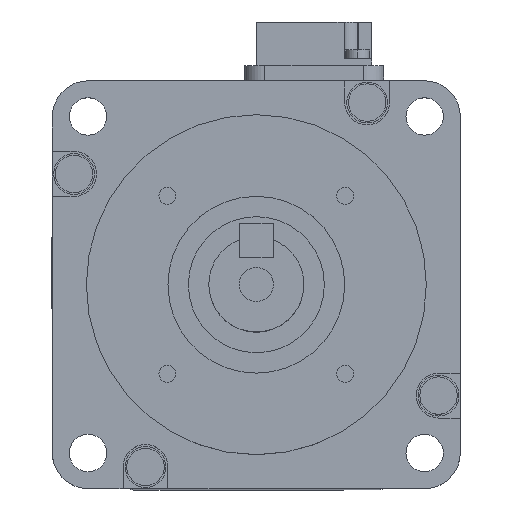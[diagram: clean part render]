
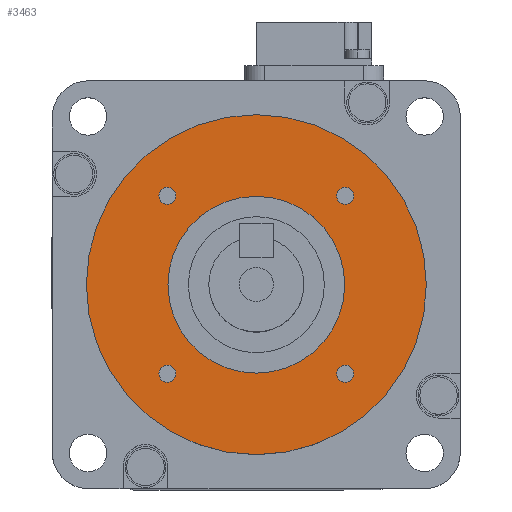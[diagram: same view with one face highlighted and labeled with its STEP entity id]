
A CAD part, top view. The second image highlights one B-rep face of the part: STEP entity #3463.
In plain terms, the highlighted planar face has unit normal (0, 0, 1).
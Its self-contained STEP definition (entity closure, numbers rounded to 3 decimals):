
#1816 = VERTEX_POINT ( 'NONE', #7084 ) ;
#1819 = EDGE_CURVE ( 'NONE', #1887, #1820, #7081, .T. ) ;
#1820 = VERTEX_POINT ( 'NONE', #7141 ) ;
#1823 = VERTEX_POINT ( 'NONE', #7136 ) ;
#1857 = VERTEX_POINT ( 'NONE', #7191 ) ;
#1861 = VERTEX_POINT ( 'NONE', #7182 ) ;
#1878 = EDGE_CURVE ( 'NONE', #1861, #1857, #7217, .T. ) ;
#1887 = VERTEX_POINT ( 'NONE', #7260 ) ;
#1889 = VERTEX_POINT ( 'NONE', #7259 ) ;
#1890 = EDGE_CURVE ( 'NONE', #1816, #1891, #7258, .T. ) ;
#1891 = VERTEX_POINT ( 'NONE', #7253 ) ;
#1893 = EDGE_CURVE ( 'NONE', #1823, #1889, #7248, .T. ) ;
#1940 = VERTEX_POINT ( 'NONE', #7338 ) ;
#1941 = VERTEX_POINT ( 'NONE', #7337 ) ;
#2028 = EDGE_CURVE ( 'NONE', #1940, #1941, #7549, .T. ) ;
#2081 = VERTEX_POINT ( 'NONE', #7638 ) ;
#2129 = EDGE_CURVE ( 'NONE', #2130, #2081, #7740, .T. ) ;
#2130 = VERTEX_POINT ( 'NONE', #7735 ) ;
#3391 = EDGE_CURVE ( 'NONE', #1891, #1816, #10092, .T. ) ;
#3392 = ORIENTED_EDGE ( 'NONE', *, *, #1890, .F. ) ;
#3393 = EDGE_LOOP ( 'NONE', ( #3394, #3445 ) ) ;
#3394 = ORIENTED_EDGE ( 'NONE', *, *, #3395, .F. ) ;
#3395 = EDGE_CURVE ( 'NONE', #1889, #1823, #10087, .T. ) ;
#3433 = ORIENTED_EDGE ( 'NONE', *, *, #2129, .F. ) ;
#3434 = ORIENTED_EDGE ( 'NONE', *, *, #3435, .F. ) ;
#3435 = EDGE_CURVE ( 'NONE', #2081, #2130, #10154, .T. ) ;
#3445 = ORIENTED_EDGE ( 'NONE', *, *, #1893, .F. ) ;
#3446 = EDGE_LOOP ( 'NONE', ( #3447, #3449 ) ) ;
#3447 = ORIENTED_EDGE ( 'NONE', *, *, #3448, .F. ) ;
#3448 = EDGE_CURVE ( 'NONE', #1820, #1887, #10137, .T. ) ;
#3449 = ORIENTED_EDGE ( 'NONE', *, *, #1819, .F. ) ;
#3450 = EDGE_LOOP ( 'NONE', ( #3451, #3453 ) ) ;
#3451 = ORIENTED_EDGE ( 'NONE', *, *, #3452, .F. ) ;
#3452 = EDGE_CURVE ( 'NONE', #1857, #1861, #10132, .T. ) ;
#3453 = ORIENTED_EDGE ( 'NONE', *, *, #1878, .F. ) ;
#3454 = EDGE_LOOP ( 'NONE', ( #3455, #3457 ) ) ;
#3455 = ORIENTED_EDGE ( 'NONE', *, *, #3456, .T. ) ;
#3456 = EDGE_CURVE ( 'NONE', #1941, #1940, #10194, .T. ) ;
#3457 = ORIENTED_EDGE ( 'NONE', *, *, #2028, .T. ) ;
#3458 = EDGE_LOOP ( 'NONE', ( #3433, #3434 ) ) ;
#3463 = ADVANCED_FACE ( 'NONE', ( #10184, #10183, #10182, #10181, #10180, #10179 ), #10178, .T. ) ;
#3464 = EDGE_LOOP ( 'NONE', ( #3465, #3392 ) ) ;
#3465 = ORIENTED_EDGE ( 'NONE', *, *, #3391, .F. ) ;
#7081 = CIRCLE ( 'NONE', #7145, 1.25 ) ;
#7084 = CARTESIAN_POINT ( 'NONE',  ( 11.831, -13.081, 3. ) ) ;
#7136 = CARTESIAN_POINT ( 'NONE',  ( -14.331, -13.081, 3. ) ) ;
#7141 = CARTESIAN_POINT ( 'NONE',  ( -11.831, 13.081, 3. ) ) ;
#7142 = DIRECTION ( 'NONE',  ( 0., 1., 0. ) ) ;
#7143 = DIRECTION ( 'NONE',  ( 0., 0., 1. ) ) ;
#7144 = CARTESIAN_POINT ( 'NONE',  ( -13.081, 13.081, 3. ) ) ;
#7145 = AXIS2_PLACEMENT_3D ( 'NONE', #7144, #7143, #7142 ) ;
#7182 = CARTESIAN_POINT ( 'NONE',  ( 11.831, 13.081, 3. ) ) ;
#7191 = CARTESIAN_POINT ( 'NONE',  ( 14.331, 13.081, 3. ) ) ;
#7213 = DIRECTION ( 'NONE',  ( 1., 0., 0. ) ) ;
#7214 = DIRECTION ( 'NONE',  ( 0., 0., 1. ) ) ;
#7215 = CARTESIAN_POINT ( 'NONE',  ( 13.081, 13.081, 3. ) ) ;
#7216 = AXIS2_PLACEMENT_3D ( 'NONE', #7215, #7214, #7213 ) ;
#7217 = CIRCLE ( 'NONE', #7216, 1.25 ) ;
#7244 = DIRECTION ( 'NONE',  ( -1., 0., 0. ) ) ;
#7245 = DIRECTION ( 'NONE',  ( 0., 0., 1. ) ) ;
#7246 = CARTESIAN_POINT ( 'NONE',  ( -13.081, -13.081, 3. ) ) ;
#7247 = AXIS2_PLACEMENT_3D ( 'NONE', #7246, #7245, #7244 ) ;
#7248 = CIRCLE ( 'NONE', #7247, 1.25 ) ;
#7253 = CARTESIAN_POINT ( 'NONE',  ( 14.331, -13.081, 3. ) ) ;
#7254 = DIRECTION ( 'NONE',  ( 0., -1., 0. ) ) ;
#7255 = DIRECTION ( 'NONE',  ( 0., 0., 1. ) ) ;
#7256 = CARTESIAN_POINT ( 'NONE',  ( 13.081, -13.081, 3. ) ) ;
#7257 = AXIS2_PLACEMENT_3D ( 'NONE', #7256, #7255, #7254 ) ;
#7258 = CIRCLE ( 'NONE', #7257, 1.25 ) ;
#7259 = CARTESIAN_POINT ( 'NONE',  ( -11.831, -13.081, 3. ) ) ;
#7260 = CARTESIAN_POINT ( 'NONE',  ( -14.331, 13.081, 3. ) ) ;
#7337 = CARTESIAN_POINT ( 'NONE',  ( -13., 0., 3. ) ) ;
#7338 = CARTESIAN_POINT ( 'NONE',  ( 13., 0., 3. ) ) ;
#7546 = DIRECTION ( 'NONE',  ( -1., 0., 0. ) ) ;
#7547 = DIRECTION ( 'NONE',  ( 0., 0., -1. ) ) ;
#7548 = AXIS2_PLACEMENT_3D ( 'NONE', #7554, #7547, #7546 ) ;
#7549 = CIRCLE ( 'NONE', #7548, 13. ) ;
#7554 = CARTESIAN_POINT ( 'NONE',  ( 0., 0., 3. ) ) ;
#7638 = CARTESIAN_POINT ( 'NONE',  ( 25., 0., 3. ) ) ;
#7735 = CARTESIAN_POINT ( 'NONE',  ( -25., 0., 3. ) ) ;
#7736 = DIRECTION ( 'NONE',  ( -1., 0., 0. ) ) ;
#7737 = DIRECTION ( 'NONE',  ( 0., 0., -1. ) ) ;
#7738 = CARTESIAN_POINT ( 'NONE',  ( 0., 0., 3. ) ) ;
#7739 = AXIS2_PLACEMENT_3D ( 'NONE', #7738, #7737, #7736 ) ;
#7740 = CIRCLE ( 'NONE', #7739, 25. ) ;
#10083 = DIRECTION ( 'NONE',  ( -1., 0., 0. ) ) ;
#10084 = DIRECTION ( 'NONE',  ( 0., 0., 1. ) ) ;
#10085 = CARTESIAN_POINT ( 'NONE',  ( -13.081, -13.081, 3. ) ) ;
#10086 = AXIS2_PLACEMENT_3D ( 'NONE', #10085, #10084, #10083 ) ;
#10087 = CIRCLE ( 'NONE', #10086, 1.25 ) ;
#10088 = DIRECTION ( 'NONE',  ( 0., -1., 0. ) ) ;
#10089 = DIRECTION ( 'NONE',  ( 0., 0., 1. ) ) ;
#10090 = CARTESIAN_POINT ( 'NONE',  ( 13.081, -13.081, 3. ) ) ;
#10091 = AXIS2_PLACEMENT_3D ( 'NONE', #10090, #10089, #10088 ) ;
#10092 = CIRCLE ( 'NONE', #10091, 1.25 ) ;
#10129 = DIRECTION ( 'NONE',  ( 0., 0., 1. ) ) ;
#10130 = CARTESIAN_POINT ( 'NONE',  ( 13.081, 13.081, 3. ) ) ;
#10131 = AXIS2_PLACEMENT_3D ( 'NONE', #10130, #10129, #10195 ) ;
#10132 = CIRCLE ( 'NONE', #10131, 1.25 ) ;
#10133 = DIRECTION ( 'NONE',  ( 0., 1., 0. ) ) ;
#10134 = DIRECTION ( 'NONE',  ( 0., 0., 1. ) ) ;
#10135 = CARTESIAN_POINT ( 'NONE',  ( -13.081, 13.081, 3. ) ) ;
#10136 = AXIS2_PLACEMENT_3D ( 'NONE', #10135, #10134, #10133 ) ;
#10137 = CIRCLE ( 'NONE', #10136, 1.25 ) ;
#10151 = DIRECTION ( 'NONE',  ( -1., 0., 0. ) ) ;
#10152 = DIRECTION ( 'NONE',  ( 0., 0., -1. ) ) ;
#10153 = AXIS2_PLACEMENT_3D ( 'NONE', #10158, #10152, #10151 ) ;
#10154 = CIRCLE ( 'NONE', #10153, 25. ) ;
#10158 = CARTESIAN_POINT ( 'NONE',  ( 0., 0., 3. ) ) ;
#10174 = DIRECTION ( 'NONE',  ( 1., 0., 0. ) ) ;
#10175 = DIRECTION ( 'NONE',  ( 0., 0., 1. ) ) ;
#10176 = CARTESIAN_POINT ( 'NONE',  ( 0., 25., 3. ) ) ;
#10177 = AXIS2_PLACEMENT_3D ( 'NONE', #10176, #10175, #10174 ) ;
#10178 = PLANE ( 'NONE',  #10177 ) ;
#10179 = FACE_OUTER_BOUND ( 'NONE', #3458, .T. ) ;
#10180 = FACE_BOUND ( 'NONE', #3454, .T. ) ;
#10181 = FACE_BOUND ( 'NONE', #3450, .T. ) ;
#10182 = FACE_BOUND ( 'NONE', #3446, .T. ) ;
#10183 = FACE_BOUND ( 'NONE', #3393, .T. ) ;
#10184 = FACE_BOUND ( 'NONE', #3464, .T. ) ;
#10190 = DIRECTION ( 'NONE',  ( -1., 0., 0. ) ) ;
#10191 = DIRECTION ( 'NONE',  ( 0., 0., -1. ) ) ;
#10192 = CARTESIAN_POINT ( 'NONE',  ( 0., 0., 3. ) ) ;
#10193 = AXIS2_PLACEMENT_3D ( 'NONE', #10192, #10191, #10190 ) ;
#10194 = CIRCLE ( 'NONE', #10193, 13. ) ;
#10195 = DIRECTION ( 'NONE',  ( 1., 0., 0. ) ) ;
